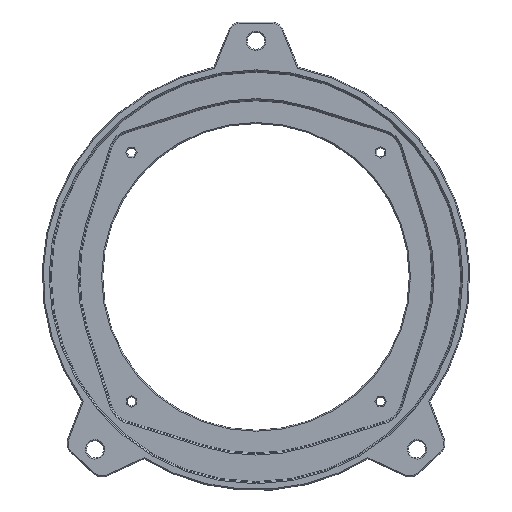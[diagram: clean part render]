
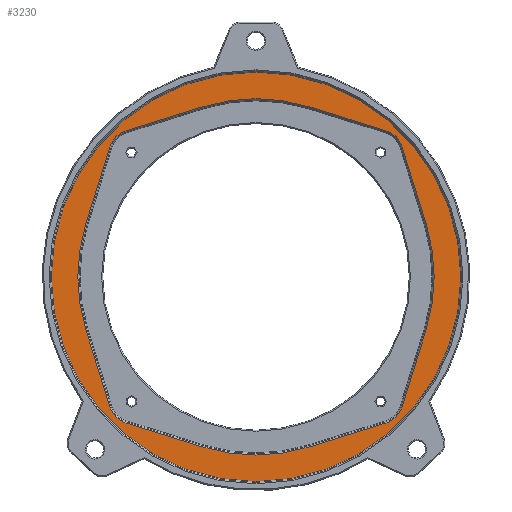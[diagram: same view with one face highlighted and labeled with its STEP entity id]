
A CAD part, top view. The second image highlights one B-rep face of the part: STEP entity #3230.
In plain terms, the highlighted planar face has unit normal (0, 0, 1).
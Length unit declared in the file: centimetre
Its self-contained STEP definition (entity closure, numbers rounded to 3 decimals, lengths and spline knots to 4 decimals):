
#219=CIRCLE('',#3469,7.7475);
#221=CIRCLE('',#3472,6.74);
#222=CIRCLE('',#3473,0.94);
#223=CIRCLE('',#3474,6.74);
#224=CIRCLE('',#3475,0.94);
#225=CIRCLE('',#3476,6.74);
#226=CIRCLE('',#3477,0.94);
#227=CIRCLE('',#3478,6.74);
#228=CIRCLE('',#3479,0.94);
#451=VERTEX_POINT('',#4999);
#453=VERTEX_POINT('',#5004);
#454=VERTEX_POINT('',#5005);
#455=VERTEX_POINT('',#5007);
#456=VERTEX_POINT('',#5009);
#457=VERTEX_POINT('',#5011);
#458=VERTEX_POINT('',#5013);
#459=VERTEX_POINT('',#5015);
#460=VERTEX_POINT('',#5017);
#461=VERTEX_POINT('',#5019);
#462=VERTEX_POINT('',#5021);
#463=VERTEX_POINT('',#5023);
#464=VERTEX_POINT('',#5025);
#465=VERTEX_POINT('',#5027);
#466=VERTEX_POINT('',#5029);
#467=VERTEX_POINT('',#5031);
#468=VERTEX_POINT('',#5033);
#782=VECTOR('',#4058,1.);
#783=VECTOR('',#4061,1.);
#784=VECTOR('',#4064,1.);
#785=VECTOR('',#4067,1.);
#786=VECTOR('',#4070,1.);
#787=VECTOR('',#4073,1.);
#788=VECTOR('',#4076,1.);
#789=VECTOR('',#4079,1.);
#1141=LINE('',#5006,#782);
#1142=LINE('',#5010,#783);
#1143=LINE('',#5014,#784);
#1144=LINE('',#5018,#785);
#1145=LINE('',#5022,#786);
#1146=LINE('',#5026,#787);
#1147=LINE('',#5030,#788);
#1148=LINE('',#5034,#789);
#1551=EDGE_CURVE('',#451,#451,#219,.T.);
#1553=EDGE_CURVE('',#453,#454,#221,.T.);
#1554=EDGE_CURVE('',#455,#453,#1141,.T.);
#1555=EDGE_CURVE('',#456,#455,#222,.T.);
#1556=EDGE_CURVE('',#457,#456,#1142,.T.);
#1557=EDGE_CURVE('',#458,#457,#223,.T.);
#1558=EDGE_CURVE('',#459,#458,#1143,.T.);
#1559=EDGE_CURVE('',#460,#459,#224,.T.);
#1560=EDGE_CURVE('',#461,#460,#1144,.T.);
#1561=EDGE_CURVE('',#462,#461,#225,.T.);
#1562=EDGE_CURVE('',#463,#462,#1145,.T.);
#1563=EDGE_CURVE('',#464,#463,#226,.T.);
#1564=EDGE_CURVE('',#465,#464,#1146,.T.);
#1565=EDGE_CURVE('',#466,#465,#227,.T.);
#1566=EDGE_CURVE('',#467,#466,#1147,.T.);
#1567=EDGE_CURVE('',#468,#467,#228,.T.);
#1568=EDGE_CURVE('',#454,#468,#1148,.T.);
#2228=ORIENTED_EDGE('',*,*,#1553,.F.);
#2229=ORIENTED_EDGE('',*,*,#1554,.F.);
#2230=ORIENTED_EDGE('',*,*,#1555,.F.);
#2231=ORIENTED_EDGE('',*,*,#1556,.F.);
#2232=ORIENTED_EDGE('',*,*,#1557,.F.);
#2233=ORIENTED_EDGE('',*,*,#1558,.F.);
#2234=ORIENTED_EDGE('',*,*,#1559,.F.);
#2235=ORIENTED_EDGE('',*,*,#1560,.F.);
#2236=ORIENTED_EDGE('',*,*,#1561,.F.);
#2237=ORIENTED_EDGE('',*,*,#1562,.F.);
#2238=ORIENTED_EDGE('',*,*,#1563,.F.);
#2239=ORIENTED_EDGE('',*,*,#1564,.F.);
#2240=ORIENTED_EDGE('',*,*,#1565,.F.);
#2241=ORIENTED_EDGE('',*,*,#1566,.F.);
#2242=ORIENTED_EDGE('',*,*,#1567,.F.);
#2243=ORIENTED_EDGE('',*,*,#1568,.F.);
#2244=ORIENTED_EDGE('',*,*,#1551,.F.);
#2780=EDGE_LOOP('',(#2228,#2229,#2230,#2231,#2232,#2233,#2234,#2235,#2236,
#2237,#2238,#2239,#2240,#2241,#2242,#2243));
#2781=EDGE_LOOP('',(#2244));
#3012=FACE_BOUND('',#2780,.T.);
#3013=FACE_BOUND('',#2781,.T.);
#3230=ADVANCED_FACE('',(#3012,#3013),#5465,.T.);
#3469=AXIS2_PLACEMENT_3D('',#4998,#4051,#4052);
#3471=AXIS2_PLACEMENT_3D('',#5002,#4055,$);
#3472=AXIS2_PLACEMENT_3D('',#5003,#4056,#4057);
#3473=AXIS2_PLACEMENT_3D('',#5008,#4059,#4060);
#3474=AXIS2_PLACEMENT_3D('',#5012,#4062,#4063);
#3475=AXIS2_PLACEMENT_3D('',#5016,#4065,#4066);
#3476=AXIS2_PLACEMENT_3D('',#5020,#4068,#4069);
#3477=AXIS2_PLACEMENT_3D('',#5024,#4071,#4072);
#3478=AXIS2_PLACEMENT_3D('',#5028,#4074,#4075);
#3479=AXIS2_PLACEMENT_3D('',#5032,#4077,#4078);
#4051=DIRECTION('',(0.,0.,-1.));
#4052=DIRECTION('',(-7.748,0.,0.));
#4055=DIRECTION('',(0.,0.,1.));
#4056=DIRECTION('',(0.,0.,1.));
#4057=DIRECTION('',(0.,6.74,0.));
#4058=DIRECTION('',(-0.955,0.298,0.));
#4059=DIRECTION('',(0.,0.,1.));
#4060=DIRECTION('',(0.665,0.665,0.));
#4061=DIRECTION('',(-0.298,0.955,0.));
#4062=DIRECTION('',(0.,0.,1.));
#4063=DIRECTION('',(6.74,0.,0.));
#4064=DIRECTION('',(0.298,0.955,0.));
#4065=DIRECTION('',(0.,0.,1.));
#4066=DIRECTION('',(0.665,-0.665,0.));
#4067=DIRECTION('',(0.955,0.298,0.));
#4068=DIRECTION('',(0.,0.,1.));
#4069=DIRECTION('',(0.,-6.74,0.));
#4070=DIRECTION('',(0.955,-0.298,0.));
#4071=DIRECTION('',(0.,0.,1.));
#4072=DIRECTION('',(-0.665,-0.665,0.));
#4073=DIRECTION('',(0.298,-0.955,0.));
#4074=DIRECTION('',(0.,0.,1.));
#4075=DIRECTION('',(-6.74,0.,0.));
#4076=DIRECTION('',(-0.298,-0.955,0.));
#4077=DIRECTION('',(0.,0.,1.));
#4078=DIRECTION('',(-0.665,0.665,0.));
#4079=DIRECTION('',(-0.955,-0.298,0.));
#4998=CARTESIAN_POINT('',(0.,0.,0.2));
#4999=CARTESIAN_POINT('',(7.7475,0.,0.2));
#5002=CARTESIAN_POINT('',(0.,0.,0.2));
#5003=CARTESIAN_POINT('',(0.,0.,0.2));
#5004=CARTESIAN_POINT('',(2.0057,6.4346,0.2));
#5005=CARTESIAN_POINT('',(-2.0057,6.4346,0.2));
#5006=CARTESIAN_POINT('',(2.7321,6.2082,0.2));
#5007=CARTESIAN_POINT('',(4.9113,5.529,0.2));
#5008=CARTESIAN_POINT('',(4.6315,4.6315,0.2));
#5009=CARTESIAN_POINT('',(5.529,4.9113,0.2));
#5010=CARTESIAN_POINT('',(6.2082,2.7321,0.2));
#5011=CARTESIAN_POINT('',(6.4346,2.0057,0.2));
#5012=CARTESIAN_POINT('',(0.,0.,0.2));
#5013=CARTESIAN_POINT('',(6.4346,-2.0057,0.2));
#5014=CARTESIAN_POINT('',(6.2082,-2.7321,0.2));
#5015=CARTESIAN_POINT('',(5.529,-4.9113,0.2));
#5016=CARTESIAN_POINT('',(4.6315,-4.6315,0.2));
#5017=CARTESIAN_POINT('',(4.9113,-5.529,0.2));
#5018=CARTESIAN_POINT('',(2.7321,-6.2082,0.2));
#5019=CARTESIAN_POINT('',(2.0057,-6.4346,0.2));
#5020=CARTESIAN_POINT('',(0.,0.,0.2));
#5021=CARTESIAN_POINT('',(-2.0057,-6.4346,0.2));
#5022=CARTESIAN_POINT('',(-2.7321,-6.2082,0.2));
#5023=CARTESIAN_POINT('',(-4.9113,-5.529,0.2));
#5024=CARTESIAN_POINT('',(-4.6315,-4.6315,0.2));
#5025=CARTESIAN_POINT('',(-5.529,-4.9113,0.2));
#5026=CARTESIAN_POINT('',(-6.2082,-2.7321,0.2));
#5027=CARTESIAN_POINT('',(-6.4346,-2.0057,0.2));
#5028=CARTESIAN_POINT('',(0.,0.,0.2));
#5029=CARTESIAN_POINT('',(-6.4346,2.0057,0.2));
#5030=CARTESIAN_POINT('',(-6.2082,2.7321,0.2));
#5031=CARTESIAN_POINT('',(-5.529,4.9113,0.2));
#5032=CARTESIAN_POINT('',(-4.6315,4.6315,0.2));
#5033=CARTESIAN_POINT('',(-4.9113,5.529,0.2));
#5034=CARTESIAN_POINT('',(-2.7321,6.2082,0.2));
#5465=PLANE('',#3471);
